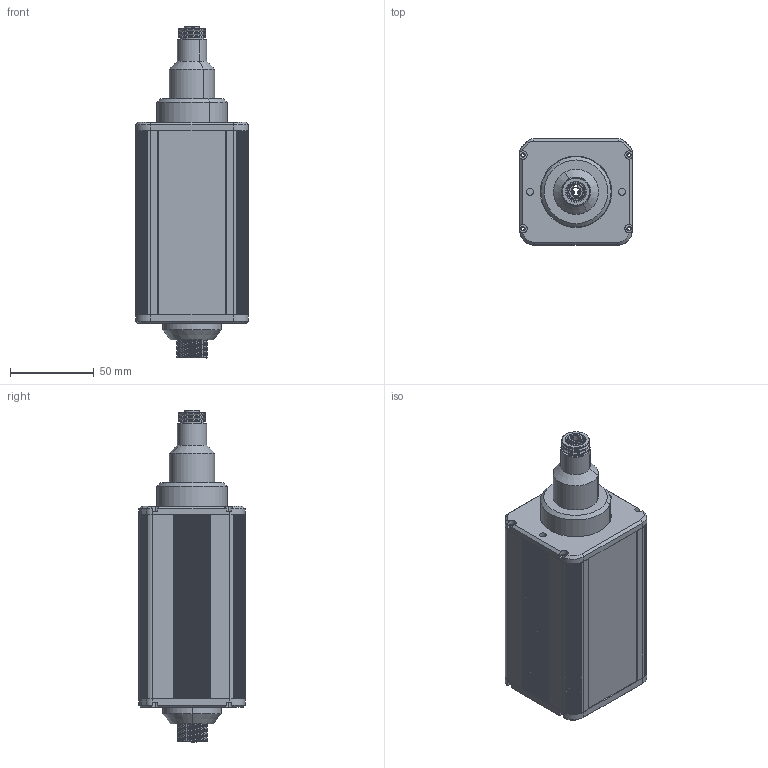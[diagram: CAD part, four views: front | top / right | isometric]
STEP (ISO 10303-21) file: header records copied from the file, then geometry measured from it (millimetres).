
FILE_DESCRIPTION (( 'STEP AP203' ), '1' );
FILE_NAME ('ZEDA-DE-MA5-0300.STEP', '2026-06-04T03:31:39', ( 'Windows User' ), ( 'P R C' ), 'SwSTEP 2.0', 'SolidWorks 2025', '' );
FILE_SCHEMA (( 'CONFIG_CONTROL_DESIGN' ));
Length unit declared in the file: millimetre
Products named in the file (1): ZEDA-DE-MA5-0300
Bounding box: 67.4 x 63.4 x 198.35 mm (x, y, z)
Surface area: 54285.6 mm2 (no closed solid volume)
Topology: 0 solids, 21 shells, 500 faces, 1629 edges, 1127 vertices
Faces by surface type: cylinder 308, plane 90, cone 49, bspline 27, torus 26
Entity records: 32255 total; most frequent: CARTESIAN_POINT 18061, DIRECTION 3048, ORIENTED_EDGE 2884, EDGE_CURVE 1629, AXIS2_PLACEMENT_3D 1184, VERTEX_POINT 1127, CIRCLE 710, LINE 680
